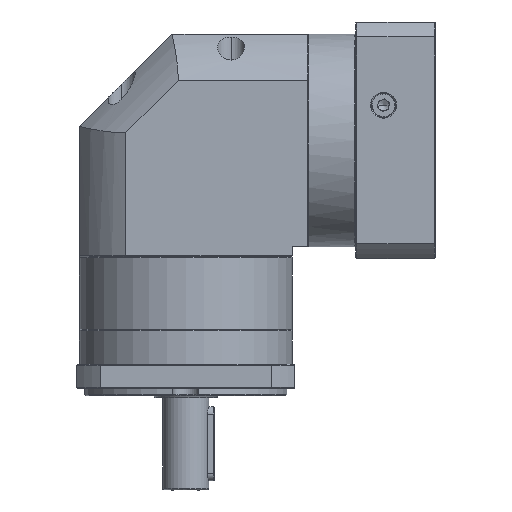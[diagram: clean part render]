
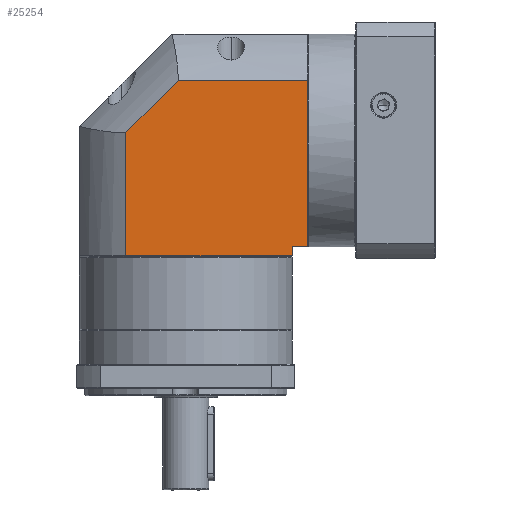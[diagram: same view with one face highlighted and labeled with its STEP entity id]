
A CAD part, front view. The second image highlights one B-rep face of the part: STEP entity #25254.
In plain terms, the highlighted planar face has unit normal (0, -1, 0).
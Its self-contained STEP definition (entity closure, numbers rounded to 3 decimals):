
#928 = VECTOR ( 'NONE', #15681, 1000. ) ;
#2699 = DIRECTION ( 'NONE',  ( 0., 0., -1. ) ) ;
#3558 = CARTESIAN_POINT ( 'NONE',  ( 99.293, -14.816, -75.322 ) ) ;
#8571 = EDGE_CURVE ( 'NONE', #34585, #132808, #117573, .T. ) ;
#10204 = VECTOR ( 'NONE', #2699, 1000. ) ;
#13706 = ORIENTED_EDGE ( 'NONE', *, *, #69214, .F. ) ;
#14252 = LINE ( 'NONE', #36336, #61228 ) ;
#15681 = DIRECTION ( 'NONE',  ( -1., 0., 0. ) ) ;
#19065 = CARTESIAN_POINT ( 'NONE',  ( 107.693, -14.816, 26.078 ) ) ;
#21467 = EDGE_CURVE ( 'NONE', #43604, #34585, #99361, .T. ) ;
#22170 = EDGE_CURVE ( 'NONE', #25424, #43604, #50623, .T. ) ;
#23498 = DIRECTION ( 'NONE',  ( 0., 1., 0. ) ) ;
#23927 = CARTESIAN_POINT ( 'NONE',  ( 99.293, -14.816, -63.822 ) ) ;
#24961 = ORIENTED_EDGE ( 'NONE', *, *, #8571, .F. ) ;
#25254 = ADVANCED_FACE ( 'NONE', ( #104170 ), #73368, .F. ) ;
#25424 = VERTEX_POINT ( 'NONE', #107694 ) ;
#26855 = DIRECTION ( 'NONE',  ( 0., 0., -1. ) ) ;
#28129 = ORIENTED_EDGE ( 'NONE', *, *, #55081, .F. ) ;
#33246 = VECTOR ( 'NONE', #26855, 1000. ) ;
#34585 = VERTEX_POINT ( 'NONE', #54581 ) ;
#34816 = DIRECTION ( 'NONE',  ( 1., 0., 0. ) ) ;
#36336 = CARTESIAN_POINT ( 'NONE',  ( 9.394, -14.816, -2.261 ) ) ;
#36370 = ORIENTED_EDGE ( 'NONE', *, *, #21467, .F. ) ;
#36554 = LINE ( 'NONE', #97105, #33246 ) ;
#38444 = VERTEX_POINT ( 'NONE', #60391 ) ;
#43604 = VERTEX_POINT ( 'NONE', #23927 ) ;
#44290 = EDGE_LOOP ( 'NONE', ( #36370, #93088, #88393, #28129, #13706, #83267, #24961 ) ) ;
#45591 = CARTESIAN_POINT ( 'NONE',  ( -15.707, -14.816, 26.078 ) ) ;
#50623 = LINE ( 'NONE', #64414, #126512 ) ;
#51861 = CARTESIAN_POINT ( 'NONE',  ( 9.394, -14.816, -68.822 ) ) ;
#54581 = CARTESIAN_POINT ( 'NONE',  ( 99.293, -14.816, -68.822 ) ) ;
#55081 = EDGE_CURVE ( 'NONE', #38444, #63151, #82621, .T. ) ;
#55136 = VECTOR ( 'NONE', #65543, 1000. ) ;
#56529 = CARTESIAN_POINT ( 'NONE',  ( -15.707, -14.816, -68.822 ) ) ;
#60391 = CARTESIAN_POINT ( 'NONE',  ( 37.732, -14.816, 26.078 ) ) ;
#61228 = VECTOR ( 'NONE', #128502, 1000. ) ;
#63151 = VERTEX_POINT ( 'NONE', #19065 ) ;
#64414 = CARTESIAN_POINT ( 'NONE',  ( -15.707, -14.816, -63.822 ) ) ;
#65543 = DIRECTION ( 'NONE',  ( 1., 0., 0. ) ) ;
#65599 = CARTESIAN_POINT ( 'NONE',  ( 9.394, -14.816, -2.261 ) ) ;
#69214 = EDGE_CURVE ( 'NONE', #119604, #38444, #14252, .T. ) ;
#69609 = DIRECTION ( 'NONE',  ( 0., 0., 1. ) ) ;
#73368 = PLANE ( 'NONE',  #84433 ) ;
#74786 = DIRECTION ( 'NONE',  ( -1., 0., 0. ) ) ;
#77303 = EDGE_CURVE ( 'NONE', #132808, #119604, #111739, .T. ) ;
#82621 = LINE ( 'NONE', #45591, #55136 ) ;
#83267 = ORIENTED_EDGE ( 'NONE', *, *, #77303, .F. ) ;
#84222 = VECTOR ( 'NONE', #69609, 1000. ) ;
#84433 = AXIS2_PLACEMENT_3D ( 'NONE', #106363, #23498, #34816 ) ;
#88393 = ORIENTED_EDGE ( 'NONE', *, *, #98914, .F. ) ;
#93088 = ORIENTED_EDGE ( 'NONE', *, *, #22170, .F. ) ;
#97105 = CARTESIAN_POINT ( 'NONE',  ( 107.693, -14.816, -75.322 ) ) ;
#98914 = EDGE_CURVE ( 'NONE', #63151, #25424, #36554, .T. ) ;
#99361 = LINE ( 'NONE', #3558, #10204 ) ;
#104170 = FACE_OUTER_BOUND ( 'NONE', #44290, .T. ) ;
#106363 = CARTESIAN_POINT ( 'NONE',  ( -15.707, -14.816, -75.322 ) ) ;
#107694 = CARTESIAN_POINT ( 'NONE',  ( 107.693, -14.816, -63.822 ) ) ;
#111739 = LINE ( 'NONE', #112507, #84222 ) ;
#112507 = CARTESIAN_POINT ( 'NONE',  ( 9.394, -14.816, -75.322 ) ) ;
#117573 = LINE ( 'NONE', #56529, #928 ) ;
#119604 = VERTEX_POINT ( 'NONE', #65599 ) ;
#126512 = VECTOR ( 'NONE', #74786, 1000. ) ;
#128502 = DIRECTION ( 'NONE',  ( 0.707, 0., 0.707 ) ) ;
#132808 = VERTEX_POINT ( 'NONE', #51861 ) ;
